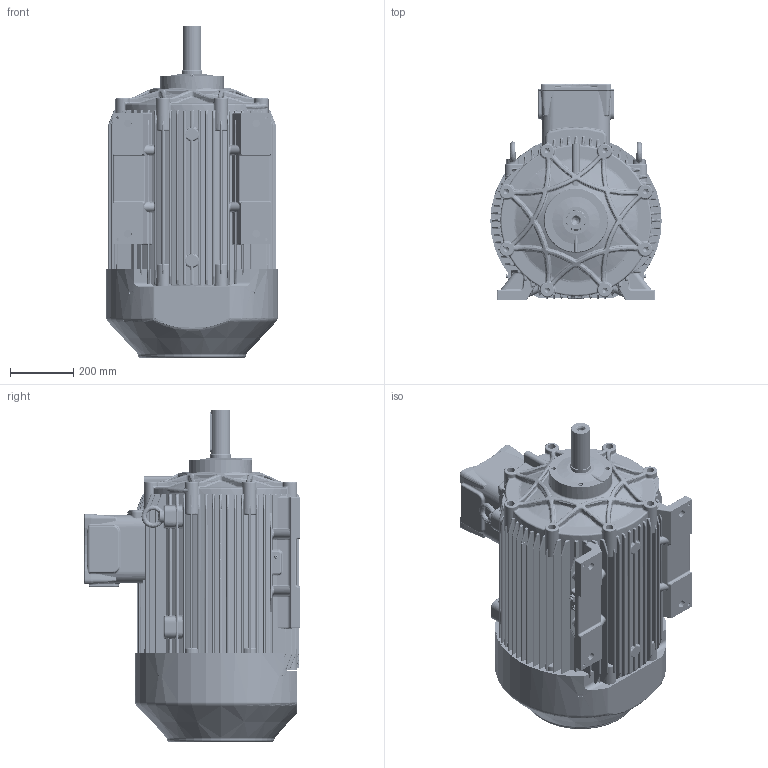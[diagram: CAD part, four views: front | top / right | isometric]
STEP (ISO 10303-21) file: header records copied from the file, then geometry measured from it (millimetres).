
FILE_DESCRIPTION (( 'STEP AP203' ), '1' );
FILE_NAME ('B3A04E8250001A01.STEP', '2018-05-21T10:32:34', ( '' ), ( '' ), 'SwSTEP 2.0', 'SolidWorks 2015', '' );
FILE_SCHEMA (( 'CONFIG_CONTROL_DESIGN' ));
Length unit declared in the file: millimetre
Products named in the file (1): B3A04E8250001A01
Bounding box: 542 x 681 x 1049.9 mm (x, y, z)
Volume: 172113474.4 mm3; surface area: 3698900 mm2
Topology: 9 solids, 38 shells, 6462 faces, 15696 edges, 9154 vertices
Faces by surface type: cylinder 2946, bspline 1402, plane 1162, torus 624, cone 226, sphere 102
Entity records: 258634 total; most frequent: CARTESIAN_POINT 119097, ORIENTED_EDGE 30222, DIRECTION 28669, EDGE_CURVE 15111, AXIS2_PLACEMENT_3D 11951, VERTEX_POINT 9136, EDGE_LOOP 6915, CIRCLE 6890
